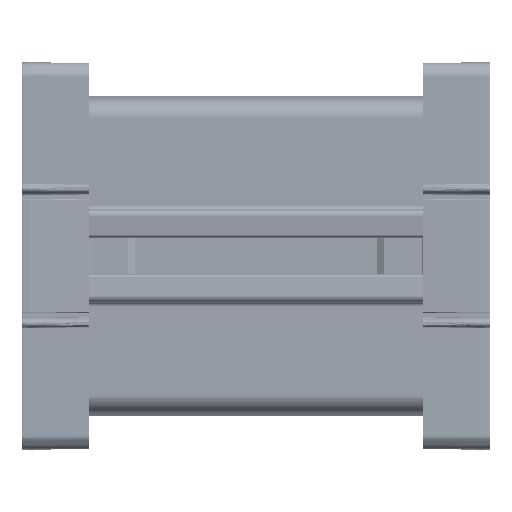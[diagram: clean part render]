
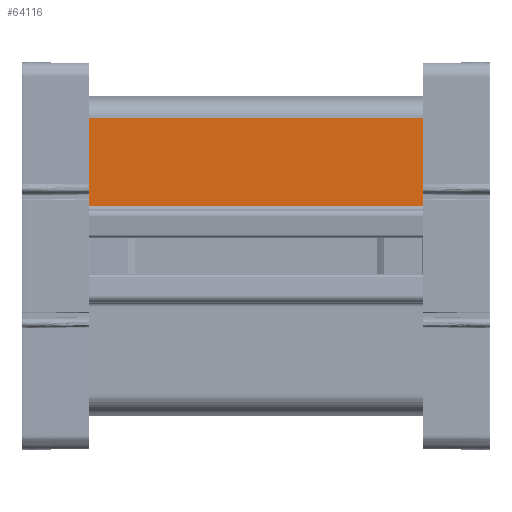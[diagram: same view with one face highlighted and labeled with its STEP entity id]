
A CAD part, front view. The second image highlights one B-rep face of the part: STEP entity #64116.
In plain terms, the highlighted planar face has unit normal (0, -1, 0) as drawn and (0, 0, 1) by its records, which use the part's own axes.
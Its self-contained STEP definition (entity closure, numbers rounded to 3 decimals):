
#61973=DIRECTION('',(0.,-1.,0.));
#61974=VECTOR('',#61973,22.796);
#61975=CARTESIAN_POINT('',(0.,-13.097,8.));
#61976=LINE('',#61975,#61974);
#62384=DIRECTION('',(0.,-1.,0.));
#62385=VECTOR('',#62384,22.796);
#62386=CARTESIAN_POINT('',(87.,-13.097,8.));
#62387=LINE('',#62386,#62385);
#62714=DIRECTION('',(1.,0.,0.));
#62715=VECTOR('',#62714,87.);
#62716=CARTESIAN_POINT('',(0.,-35.892,8.));
#62717=LINE('',#62716,#62715);
#62718=DIRECTION('',(1.,0.,0.));
#62719=VECTOR('',#62718,87.);
#62720=CARTESIAN_POINT('',(0.,-13.097,8.));
#62721=LINE('',#62720,#62719);
#63066=CARTESIAN_POINT('',(0.,-13.097,8.));
#63067=CARTESIAN_POINT('',(87.,-13.097,8.));
#63068=VERTEX_POINT('',#63066);
#63069=VERTEX_POINT('',#63067);
#63102=CARTESIAN_POINT('',(87.,-35.892,8.));
#63104=VERTEX_POINT('',#63102);
#63108=CARTESIAN_POINT('',(0.,-35.892,8.));
#63109=VERTEX_POINT('',#63108);
#64104=CARTESIAN_POINT('',(0.,41.75,8.));
#64105=DIRECTION('',(0.,0.,1.));
#64106=DIRECTION('',(0.,-1.,0.));
#64107=AXIS2_PLACEMENT_3D('',#64104,#64105,#64106);
#64108=PLANE('',#64107);
#64109=ORIENTED_EDGE('',*,*,#64085,.F.);
#64110=ORIENTED_EDGE('',*,*,#63169,.F.);
#64112=ORIENTED_EDGE('',*,*,#64111,.T.);
#64113=ORIENTED_EDGE('',*,*,#63500,.T.);
#64114=EDGE_LOOP('',(#64109,#64110,#64112,#64113));
#64115=FACE_OUTER_BOUND('',#64114,.F.);
#64116=ADVANCED_FACE('',(#64115),#64108,.T.);
#63169=EDGE_CURVE('',#63068,#63109,#61976,.T.);
#63500=EDGE_CURVE('',#63069,#63104,#62387,.T.);
#64085=EDGE_CURVE('',#63109,#63104,#62717,.T.);
#64111=EDGE_CURVE('',#63068,#63069,#62721,.T.);
